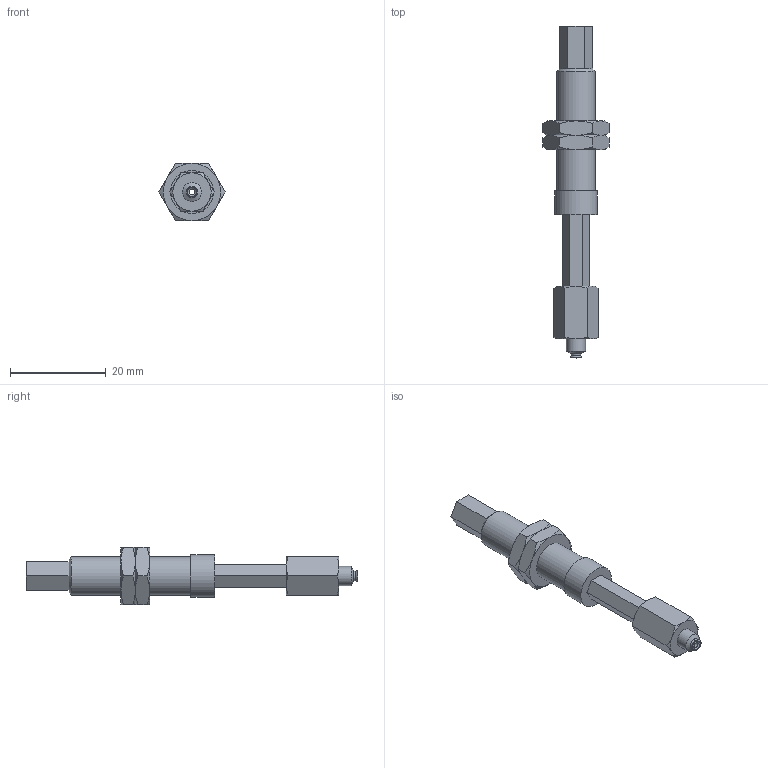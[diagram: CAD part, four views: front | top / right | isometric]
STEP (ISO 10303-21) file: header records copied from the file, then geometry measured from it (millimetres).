
FILE_DESCRIPTION(('STEP AP203'),'1');
FILE_NAME('.stp','2025-08-27T02:35:50',(' '),(' '),'Spatial InterOp 3D',' ',' ');
FILE_SCHEMA(('CONFIG_CONTROL_DESIGN'));
Length unit declared in the file: millimetre
Products named in the file (6): BNABPFTH-2A-15-※; ADAPTER; NAPFTH-2A-15-MBODY; Nut-2A-15-h; NAPFTH-2A-15-FBODY; BPFG-2A-※
Assembly tree (6 placements, depth 2):
  BNABPFTH-2A-15-※
    ADAPTER
    NAPFTH-2A-15-MBODY
    Nut-2A-15-h  x2
    NAPFTH-2A-15-FBODY
    BPFG-2A-※
Bounding box: 13.86 x 69.5 x 12 mm (x, y, z)
Volume: 3219.3 mm3; surface area: 3834.2 mm2
Topology: 6 solids, 6 shells, 121 faces, 260 edges, 157 vertices
Faces by surface type: plane 54, cone 46, cylinder 13, torus 7, bspline 1
Full cylindrical faces by diameter (mm): 1.2 x3, 2 x2, 2.459 x1, 3 x2, 4 x1, 7.188 x2, 8 x1, 9 x1
Entity records: 2967 total; most frequent: CARTESIAN_POINT 720, DIRECTION 400, ORIENTED_EDGE 354, EDGE_CURVE 177, AXIS2_PLACEMENT_3D 167, EDGE_LOOP 142, VERTEX_POINT 123, FACE_OUTER_BOUND 118
